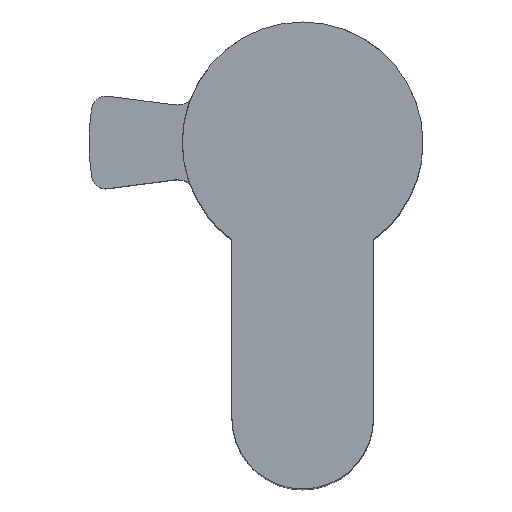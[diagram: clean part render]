
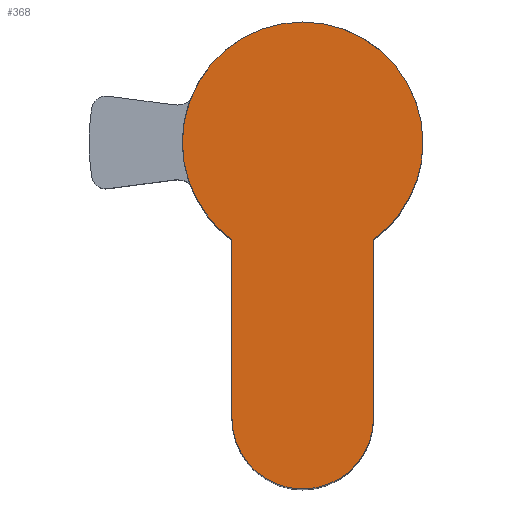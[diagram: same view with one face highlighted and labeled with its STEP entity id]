
A CAD part, top view. The second image highlights one B-rep face of the part: STEP entity #368.
In plain terms, the highlighted planar face has unit normal (0, 0, 1).
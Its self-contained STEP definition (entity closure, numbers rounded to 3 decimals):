
#16 = EDGE_CURVE ( 'NONE', #1058, #404, #1410, .T. ) ;
#109 = DIRECTION ( 'NONE',  ( 0., 0., 1. ) ) ;
#115 = DIRECTION ( 'NONE',  ( 0., 0., 1. ) ) ;
#135 = DIRECTION ( 'NONE',  ( 0., 1., 0. ) ) ;
#196 = VECTOR ( 'NONE', #135, 1000. ) ;
#214 = ORIENTED_EDGE ( 'NONE', *, *, #1571, .T. ) ;
#242 = AXIS2_PLACEMENT_3D ( 'NONE', #613, #109, #319 ) ;
#260 = DIRECTION ( 'NONE',  ( 1., 0., 0. ) ) ;
#273 = EDGE_CURVE ( 'NONE', #1063, #348, #670, .T. ) ;
#276 = FACE_OUTER_BOUND ( 'NONE', #1088, .T. ) ;
#319 = DIRECTION ( 'NONE',  ( 1., 0., 0. ) ) ;
#348 = VERTEX_POINT ( 'NONE', #627 ) ;
#368 = ADVANCED_FACE ( 'NONE', ( #276 ), #377, .T. ) ;
#377 = PLANE ( 'NONE',  #1379 ) ;
#404 = VERTEX_POINT ( 'NONE', #750 ) ;
#463 = DIRECTION ( 'NONE',  ( 0., 0., 1. ) ) ;
#474 = CARTESIAN_POINT ( 'NONE',  ( 0., 0., 10. ) ) ;
#485 = CARTESIAN_POINT ( 'NONE',  ( 8.5, 0., 10. ) ) ;
#500 = CARTESIAN_POINT ( 'NONE',  ( 0., 0., 10. ) ) ;
#508 = ORIENTED_EDGE ( 'NONE', *, *, #754, .T. ) ;
#527 = DIRECTION ( 'NONE',  ( 0., -1., 0. ) ) ;
#587 = DIRECTION ( 'NONE',  ( 1., 0., 0. ) ) ;
#593 = VECTOR ( 'NONE', #527, 1000. ) ;
#598 = VERTEX_POINT ( 'NONE', #835 ) ;
#613 = CARTESIAN_POINT ( 'NONE',  ( 0., 0., 10. ) ) ;
#627 = CARTESIAN_POINT ( 'NONE',  ( 5., -19.5, 10. ) ) ;
#629 = ORIENTED_EDGE ( 'NONE', *, *, #16, .T. ) ;
#669 = VERTEX_POINT ( 'NONE', #841 ) ;
#670 = CIRCLE ( 'NONE', #1179, 5. ) ;
#715 = AXIS2_PLACEMENT_3D ( 'NONE', #500, #1090, #997 ) ;
#750 = CARTESIAN_POINT ( 'NONE',  ( -8.5, 0., 10. ) ) ;
#754 = EDGE_CURVE ( 'NONE', #348, #598, #1211, .T. ) ;
#756 = CARTESIAN_POINT ( 'NONE',  ( -5., -6.874, 10. ) ) ;
#835 = CARTESIAN_POINT ( 'NONE',  ( 5., -6.874, 10. ) ) ;
#841 = CARTESIAN_POINT ( 'NONE',  ( -5., -6.874, 10. ) ) ;
#858 = EDGE_CURVE ( 'NONE', #669, #1063, #1501, .T. ) ;
#997 = DIRECTION ( 'NONE',  ( 1., 0., 0. ) ) ;
#1017 = EDGE_CURVE ( 'NONE', #404, #669, #1176, .T. ) ;
#1058 = VERTEX_POINT ( 'NONE', #485 ) ;
#1063 = VERTEX_POINT ( 'NONE', #1162 ) ;
#1079 = CARTESIAN_POINT ( 'NONE',  ( 5., -19.5, 10. ) ) ;
#1088 = EDGE_LOOP ( 'NONE', ( #214, #629, #1456, #1454, #1283, #508 ) ) ;
#1090 = DIRECTION ( 'NONE',  ( 0., 0., 1. ) ) ;
#1113 = CARTESIAN_POINT ( 'NONE',  ( 0., 0., 10. ) ) ;
#1126 = AXIS2_PLACEMENT_3D ( 'NONE', #474, #463, #587 ) ;
#1162 = CARTESIAN_POINT ( 'NONE',  ( -5., -19.5, 10. ) ) ;
#1172 = DIRECTION ( 'NONE',  ( 1., 0., 0. ) ) ;
#1176 = CIRCLE ( 'NONE', #242, 8.5 ) ;
#1179 = AXIS2_PLACEMENT_3D ( 'NONE', #1420, #115, #1172 ) ;
#1211 = LINE ( 'NONE', #1079, #196 ) ;
#1257 = CIRCLE ( 'NONE', #1126, 8.5 ) ;
#1283 = ORIENTED_EDGE ( 'NONE', *, *, #273, .T. ) ;
#1346 = DIRECTION ( 'NONE',  ( 0., 0., 1. ) ) ;
#1379 = AXIS2_PLACEMENT_3D ( 'NONE', #1113, #1346, #260 ) ;
#1410 = CIRCLE ( 'NONE', #715, 8.5 ) ;
#1420 = CARTESIAN_POINT ( 'NONE',  ( 0., -19.5, 10. ) ) ;
#1454 = ORIENTED_EDGE ( 'NONE', *, *, #858, .T. ) ;
#1456 = ORIENTED_EDGE ( 'NONE', *, *, #1017, .T. ) ;
#1501 = LINE ( 'NONE', #756, #593 ) ;
#1571 = EDGE_CURVE ( 'NONE', #598, #1058, #1257, .T. ) ;
